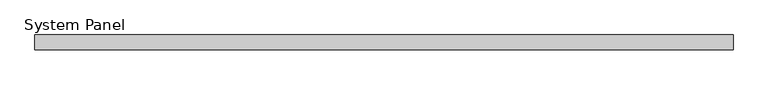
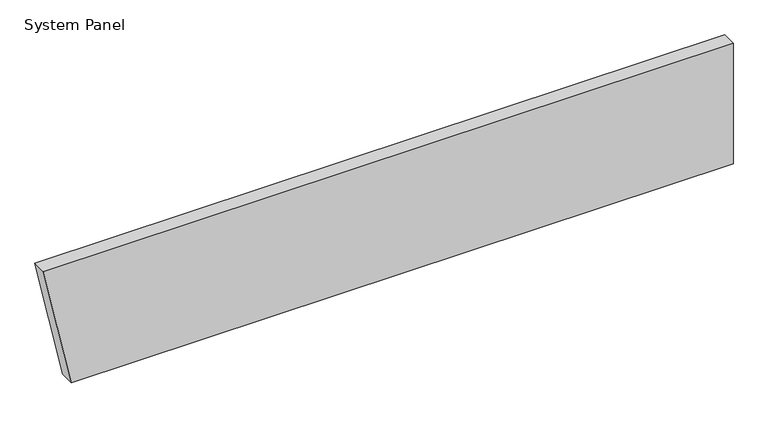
"""IFC4 building model written with IfcOpenShell, lengths in millimetres: plate geometry, System Panel : InsulWall_140mm_Plain_Surfmist."""

import ifcopenshell
import ifcopenshell.guid

model = None  # the IFC model being written
_history = None  # IfcOwnerHistory: only IFC2X3 demands one
_inside = {}  # id of a spatial element -> (the spatial element, [elements in it])
_under = {}  # id of a project, library or spatial element -> (it, [spatial elements below it])
_declared = {}  # id of a project -> (the project, [libraries it declares])
_typed = {}  # id of a type object -> (the type object, [elements of that type])
_made_of = {}  # id of a material, layer set ... -> (it, [elements and type objects made of it])


def new_model(schema):
    """Start an empty IFC model of exactly this schema.

    Asked for "IFC4X3", IfcOpenShell would pick the latest addendum, in which some entities
    have other attributes; the version numbers below select the first issue.
    IFC2X3 requires an IfcOwnerHistory on every rooted entity: one is made here for all.
    """
    global model, _history
    if schema == "IFC4X3":
        model = ifcopenshell.file(schema_version=(4, 3, 0, 0))
    else:
        model = ifcopenshell.file(schema=schema)
    _inside.clear()
    _under.clear()
    _declared.clear()
    _typed.clear()
    _made_of.clear()
    _history = None
    if model.schema == "IFC2X3":
        org = make("IfcOrganization", Name="unknown")
        user = make(
            "IfcPersonAndOrganization",
            ThePerson=make("IfcPerson", FamilyName="unknown"),
            TheOrganization=org,
        )
        app = make(
            "IfcApplication",
            ApplicationDeveloper=org,
            Version="unknown",
            ApplicationFullName="unknown",
            ApplicationIdentifier="unknown",
        )
        _history = make(
            "IfcOwnerHistory",
            OwningUser=user,
            OwningApplication=app,
            ChangeAction="ADDED",
            CreationDate=0,
        )
    return model


def make(cls, **values):
    """One entity of the class cls with the attributes given. An attribute that is None is left unset."""
    return model.create_entity(
        cls, **{name: value for name, value in values.items() if value is not None}
    )


def rooted(cls, **values):
    """An entity with a GlobalId (a new one), such as an element, a storey or a relation."""
    return make(cls, GlobalId=ifcopenshell.guid.new(), OwnerHistory=_history, **values)


def si_unit(unit_type, name, prefix=None):
    """IfcSIUnit, for example si_unit("LENGTHUNIT", "METRE", prefix="MILLI")."""
    return make("IfcSIUnit", UnitType=unit_type, Prefix=prefix, Name=name)


def assignment(units):
    """IfcUnitAssignment: the units of a project."""
    return None if units is None else make("IfcUnitAssignment", Units=units)


def point(xyz):
    """IfcCartesianPoint."""
    return None if xyz is None else make("IfcCartesianPoint", Coordinates=xyz)


def direction(xyz):
    """IfcDirection."""
    return None if xyz is None else make("IfcDirection", DirectionRatios=xyz)


def frame(location, z_axis=None, x_axis=None):
    """IfcAxis2Placement3D, a coordinate frame: its origin and axes. An axis left out is left unset."""
    return make(
        "IfcAxis2Placement3D",
        Location=point(location),
        Axis=direction(z_axis),
        RefDirection=direction(x_axis),
    )


def origin():
    """The frame at (0, 0, 0) with its axes left unset."""
    return frame((0.0, 0.0, 0.0))


def place(relative_to, where):
    """IfcLocalPlacement: puts the frame where relative to a parent placement (None: the world)."""
    return make(
        "IfcLocalPlacement", PlacementRelTo=relative_to, RelativePlacement=where
    )


def context(
    kind, dimensions, precision=None, world=None, true_north=None, identifier=None
):
    """IfcGeometricRepresentationContext, for example the 3D "Model" context."""
    return make(
        "IfcGeometricRepresentationContext",
        ContextIdentifier=identifier,
        ContextType=kind,
        CoordinateSpaceDimension=dimensions,
        Precision=precision,
        WorldCoordinateSystem=world,
        TrueNorth=true_north,
    )


def project(units=None, contexts=None):
    """IfcProject with its units and contexts."""
    return rooted(
        "IfcProject",
        Name="project",
        RepresentationContexts=contexts,
        UnitsInContext=assignment(units),
    )


def spatial(cls, under=None, at=None, **own):
    """A site, building, storey or space (cls), placed at a placement, below another one or the project."""
    s = rooted(cls, ObjectPlacement=at, **own)
    if under is not None:
        _under.setdefault(under.id(), (under, []))[1].append(s)
    return s


def polyline(points):
    """IfcPolyline through the points."""
    return make("IfcPolyline", Points=[point(p) for p in points])


def outline(outer, holes=None, kind="AREA"):
    """IfcArbitraryClosedProfileDef: a profile drawn as a closed curve; with holes, ...WithVoids."""
    if holes is None:
        return make("IfcArbitraryClosedProfileDef", ProfileType=kind, OuterCurve=outer)
    return make(
        "IfcArbitraryProfileDefWithVoids",
        ProfileType=kind,
        OuterCurve=outer,
        InnerCurves=holes,
    )


def extrude(swept, where, along, depth):
    """IfcExtrudedAreaSolid: the profile swept, set in the frame where, extruded along a direction by depth."""
    return make(
        "IfcExtrudedAreaSolid",
        SweptArea=swept,
        Position=where,
        ExtrudedDirection=direction(along),
        Depth=depth,
    )


def shape(context_of_items, identifier, shape_type, items):
    """IfcShapeRepresentation: the items that make up one representation, for example the "Body"."""
    return make(
        "IfcShapeRepresentation",
        ContextOfItems=context_of_items,
        RepresentationIdentifier=identifier,
        RepresentationType=shape_type,
        Items=items,
    )


def source(mapping_origin, context_of_items, identifier, shape_type, items):
    """IfcRepresentationMap: a shape defined once, which mapped items show again and again."""
    return make(
        "IfcRepresentationMap",
        MappingOrigin=mapping_origin,
        MappedRepresentation=shape(context_of_items, identifier, shape_type, items),
    )


def transform(
    local_origin,
    x_axis=None,
    y_axis=None,
    z_axis=None,
    scale=None,
    scale2=None,
    scale3=None,
    uniform=True,
):
    """IfcCartesianTransformationOperator3D, or its non-uniform kind. x_axis, y_axis, z_axis: its Axis1, 2, 3."""
    if uniform:
        return make(
            "IfcCartesianTransformationOperator3D",
            Axis1=direction(x_axis),
            Axis2=direction(y_axis),
            LocalOrigin=point(local_origin),
            Scale=scale,
            Axis3=direction(z_axis),
        )
    return make(
        "IfcCartesianTransformationOperator3DnonUniform",
        Axis1=direction(x_axis),
        Axis2=direction(y_axis),
        LocalOrigin=point(local_origin),
        Scale=scale,
        Axis3=direction(z_axis),
        Scale2=scale2,
        Scale3=scale3,
    )


def mapped(mapping_source, mapping_target):
    """IfcMappedItem: shows the shape of a source again, moved by a transform."""
    return make(
        "IfcMappedItem", MappingSource=mapping_source, MappingTarget=mapping_target
    )


def made_of(thing, what):
    """Note that an element or type object is made of a material, layer set ...; save() writes the relation."""
    if what is not None:
        _made_of.setdefault(what.id(), (what, []))[1].append(thing)
    return thing


def element(
    cls,
    number,
    at=None,
    inside=None,
    cuts=None,
    type_object=None,
    material=None,
    context=None,
    identifier="Body",
    shape_type=None,
    held_by="IfcProductDefinitionShape",
    body=None,
    shapes=None,
    **own,
):
    """One element of the class cls, such as IfcWall. Its Tag is "e" and its number.

    at: its placement. inside: the storey or other place that contains it. cuts: it is an
    opening in that element (IfcRelVoidsElement). A single representation is given by context,
    identifier, shape_type and body (its items); several are given by shapes. held_by: the class
    of the entity that holds the representations. save() writes the other relations.
    """
    e = rooted(cls, Tag="e%d" % number, ObjectPlacement=at, **own)
    if body is not None:
        shapes = [shape(context, identifier, shape_type, body)]
    if shapes is not None:
        e.Representation = make(held_by, Representations=shapes)
    if inside is not None:
        _inside.setdefault(inside.id(), (inside, []))[1].append(e)
    if cuts is not None:
        rooted(
            "IfcRelVoidsElement", RelatingBuildingElement=cuts, RelatedOpeningElement=e
        )
    if type_object is not None:
        _typed.setdefault(type_object.id(), (type_object, []))[1].append(e)
    return made_of(e, material)


def aggregate(whole, parts):
    """IfcRelAggregates: a whole, such as a stair, and the parts it consists of."""
    return rooted("IfcRelAggregates", RelatingObject=whole, RelatedObjects=parts)


def save(model, path):
    """Write the relations noted so far, then the file.

    IfcRelAggregates (storeys below a building ...), IfcRelContainedInSpatialStructure (elements
    in a storey), IfcRelDefinesByType, IfcRelAssociatesMaterial and IfcRelDeclares: one each for
    every whole, place, type object, material and project.
    """
    for whole, parts in _under.values():
        aggregate(whole, parts)
    for where, things in _inside.values():
        rooted(
            "IfcRelContainedInSpatialStructure",
            RelatedElements=things,
            RelatingStructure=where,
        )
    for kind, things in _typed.values():
        rooted("IfcRelDefinesByType", RelatedObjects=things, RelatingType=kind)
    for what, things in _made_of.values():
        rooted("IfcRelAssociatesMaterial", RelatedObjects=things, RelatingMaterial=what)
    for by, libraries in _declared.values():
        rooted("IfcRelDeclares", RelatingContext=by, RelatedDefinitions=libraries)
    model.write(path)


def system_panel_92898fe0(model_context):
    return source(origin(), model_context, "Body", "SweptSolid", [
        extrude(outline(polyline([(0.0, -2995.0), (0.0, 3255.8716619), (1200.0, 3255.8716619), (1200.0, -3255.8716619), (0.0, -2995.0)])), frame((0.0, -140.0, 0.0), z_axis=(0.0, 1.0, 0.0), x_axis=(0.0, 0.0, 1.0)), (0.0, 0.0, 1.0), 140.0),
    ])


if __name__ == "__main__":
    model = new_model("IFC4")
    model_context = context("Model", 3, world=origin())
    ifc_project = project(units=[si_unit("LENGTHUNIT", "METRE", prefix="MILLI")], contexts=[model_context])
    site = spatial("IfcSite", under=ifc_project)
    building = spatial("IfcBuilding", under=site)
    placement = place(None, origin())
    system_panel_shape = system_panel_92898fe0(model_context)
    element("IfcPlate", 1, ObjectType="System Panel : InsulWall_140mm_Plain_Surfmist", at=placement, inside=building, context=model_context, shape_type="MappedRepresentation", body=[
        mapped(system_panel_shape, transform((0.0, 0.0, 0.0), x_axis=(1.0, 0.0, 0.0), y_axis=(0.0, 1.0, 0.0), z_axis=(0.0, 0.0, 1.0))),
    ])
    save(model, "model.ifc")
